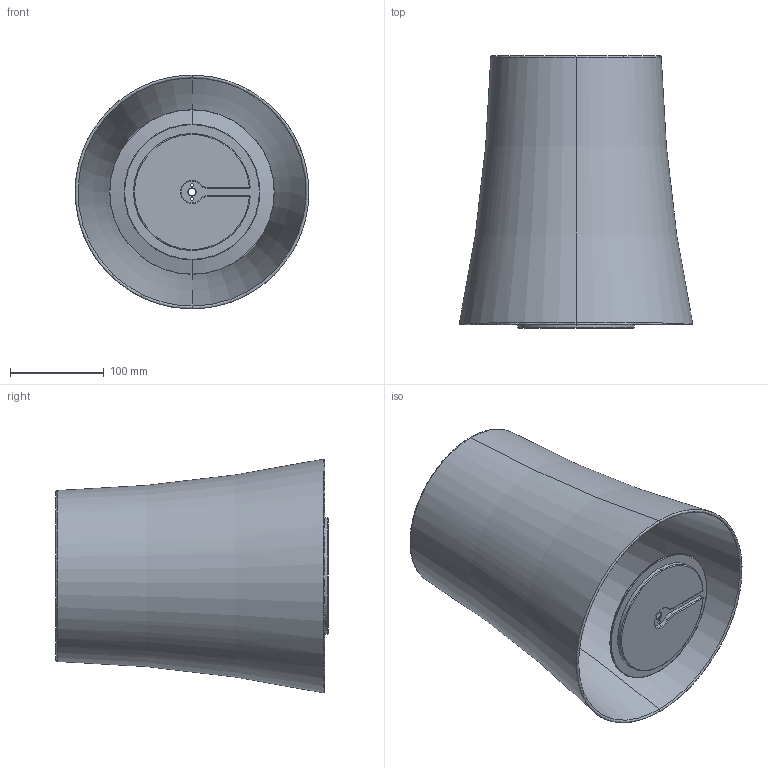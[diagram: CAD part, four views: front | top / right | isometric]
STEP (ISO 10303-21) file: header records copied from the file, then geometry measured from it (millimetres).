
FILE_DESCRIPTION (( 'STEP AP214' ), '1' );
FILE_NAME ('221_ZERO-GRANDE_T_PL_3D.STEP', '2021-05-03T09:56:25', ( '' ), ( '' ), 'SwSTEP 2.0', 'SolidWorks 2021', '' );
FILE_SCHEMA (( 'AUTOMOTIVE_DESIGN' ));
Length unit declared in the file: millimetre
Products named in the file (1): 221_ZERO-GRANDE_T_PL_3D
Bounding box: 249.41 x 290.8 x 249.61 mm (x, y, z)
Volume: 674606.6 mm3; surface area: 451317.3 mm2
Topology: 3 solids, 3 shells, 64 faces, 173 edges, 111 vertices
Faces by surface type: torus 20, cylinder 20, cone 12, plane 6, bspline 4, sphere 2
Entity records: 5024 total; most frequent: CARTESIAN_POINT 2688, ORIENTED_EDGE 338, DIRECTION 336, EDGE_CURVE 169, AXIS2_PLACEMENT_3D 149, VERTEX_POINT 109, CIRCLE 88, EDGE_LOOP 70
